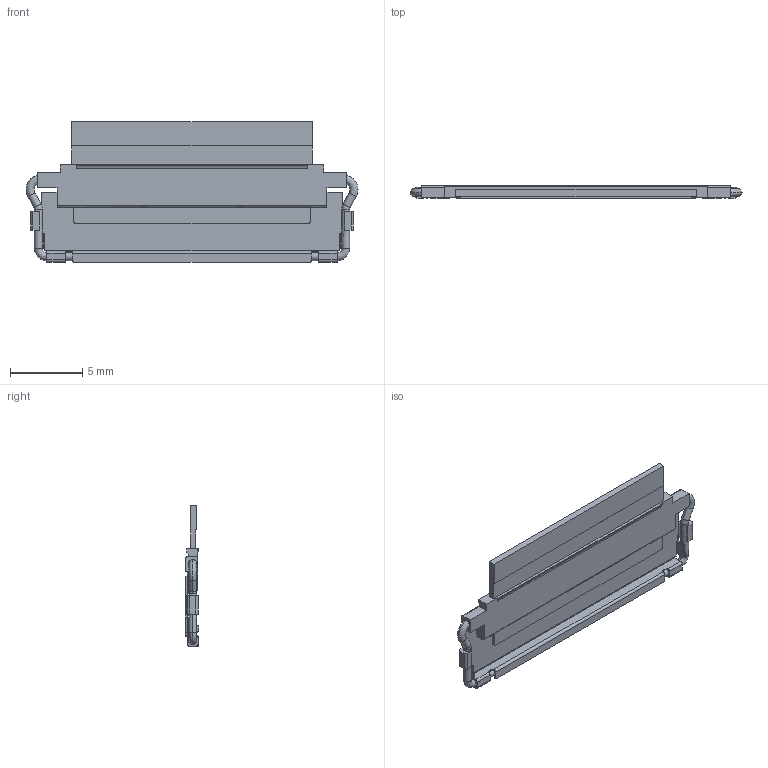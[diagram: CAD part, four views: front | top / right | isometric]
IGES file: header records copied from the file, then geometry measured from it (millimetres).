
Start section: SolidWorks IGES file using analytic representation for surfaces
Global section: file name: C:\3dwork\watanabe\20221102 CABLINE－CAII F中埋めモデル\提出用\20856-040T-01 FPC ASS'Y IGES R3 ALL.IGS; native system: SolidWorks 2020; preprocessor: SolidWorks 2020; author: E1480; date: 221104.102254; units: millimetre
Bounding box: 22.95 x 0.95 x 9.7 mm (x, y, z)
Surface area: 543.4 mm2 (no closed solid volume)
Topology: 0 solids, 0 shells, 525 faces, 3472 edges, 3472 vertices
Faces by surface type: bspline 456, revolution 69
